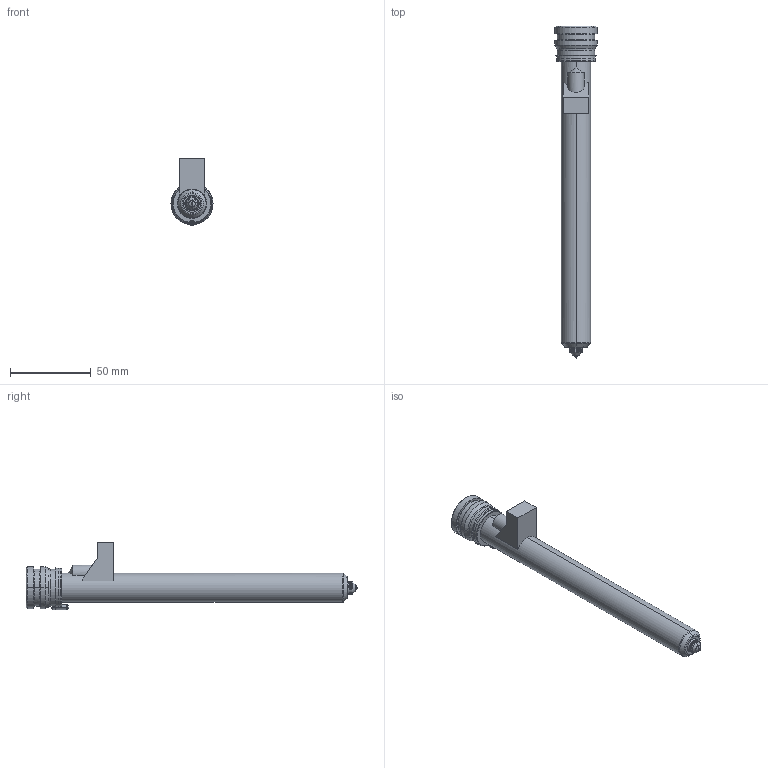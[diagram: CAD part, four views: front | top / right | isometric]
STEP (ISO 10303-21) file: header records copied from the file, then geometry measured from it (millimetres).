
FILE_DESCRIPTION((''),'2;1');
FILE_NAME('MPN-08-24-VX8-186-M','2026-02-05T13:31:55',('UPTIO'),('Thermoplay S.p.A.'),'CREO PARAMETRIC BY PTC INC, 2023494','CREO PARAMETRIC BY PTC INC, 2023494','');
FILE_SCHEMA(('CONFIG_CONTROL_DESIGN','SHAPE_APPEARANCE_LAYERS_GROUPS'));
Length unit declared in the file: millimetre
Products named in the file (1): MPN-08-24-VX8-186-M
Bounding box: 26 x 205.5 x 41.5 mm (x, y, z)
Volume: 38095 mm3; surface area: 51262.8 mm2
Topology: 2 solids, 3 shells, 529 faces, 1372 edges, 842 vertices
Faces by surface type: cylinder 174, plane 143, bspline 77, torus 60, cone 60, sphere 9, extrusion 6
Entity records: 27365 total; most frequent: CARTESIAN_POINT 11844, ORIENTED_EDGE 2726, DIRECTION 2495, EDGE_CURVE 1363, AXIS2_PLACEMENT_3D 975, VERTEX_POINT 842, EDGE_LOOP 559, VECTOR 545
